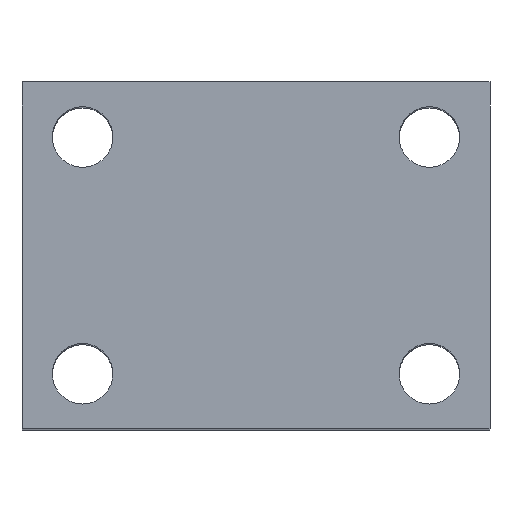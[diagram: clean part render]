
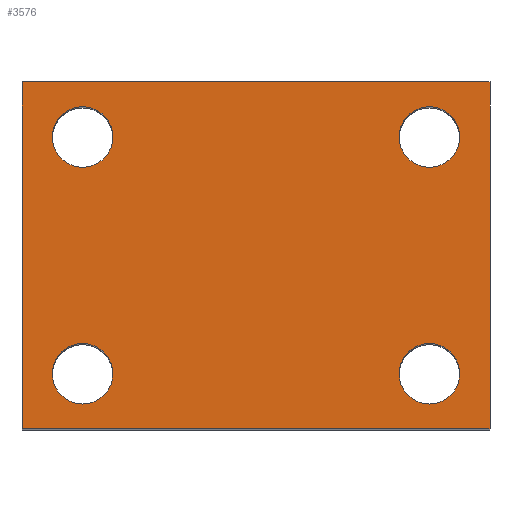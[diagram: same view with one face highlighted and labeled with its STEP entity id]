
A CAD part, top view. The second image highlights one B-rep face of the part: STEP entity #3576.
In plain terms, the highlighted planar face has unit normal (0, 0, 1).
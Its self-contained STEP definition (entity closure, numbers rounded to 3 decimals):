
#280 = FACE_BOUND ( 'NONE', #11046, .T. ) ;
#470 = CARTESIAN_POINT ( 'NONE',  ( -42.5, 63., 47.5 ) ) ;
#975 = VERTEX_POINT ( 'NONE', #13148 ) ;
#1243 = VERTEX_POINT ( 'NONE', #2969 ) ;
#1803 = CARTESIAN_POINT ( 'NONE',  ( 31.5, 53., 47.5 ) ) ;
#2070 = LINE ( 'NONE', #12819, #12425 ) ;
#2250 = AXIS2_PLACEMENT_3D ( 'NONE', #14847, #7132, #16204 ) ;
#2406 = PLANE ( 'NONE',  #11233 ) ;
#2740 = VERTEX_POINT ( 'NONE', #6909 ) ;
#2824 = AXIS2_PLACEMENT_3D ( 'NONE', #1803, #10893, #3177 ) ;
#2969 = CARTESIAN_POINT ( 'NONE',  ( 42.5, 63., 47.5 ) ) ;
#3085 = EDGE_CURVE ( 'NONE', #10294, #14927, #7605, .T. ) ;
#3123 = CARTESIAN_POINT ( 'NONE',  ( 31.5, 10., 47.5 ) ) ;
#3177 = DIRECTION ( 'NONE',  ( -1., 0., 0. ) ) ;
#3562 = LINE ( 'NONE', #470, #16988 ) ;
#3576 = ADVANCED_FACE ( 'NONE', ( #280, #13443, #6582, #9978, #16972 ), #2406, .F. ) ;
#3815 = DIRECTION ( 'NONE',  ( 0., -1., 0. ) ) ;
#3971 = EDGE_LOOP ( 'NONE', ( #15942, #7322 ) ) ;
#4237 = CARTESIAN_POINT ( 'NONE',  ( 31.5, 53., 47.5 ) ) ;
#4258 = CARTESIAN_POINT ( 'NONE',  ( -31.5, 10., 47.5 ) ) ;
#4261 = VERTEX_POINT ( 'NONE', #8660 ) ;
#4395 = EDGE_LOOP ( 'NONE', ( #5361, #8492, #15453, #5558 ) ) ;
#4480 = DIRECTION ( 'NONE',  ( -1., 0., 0. ) ) ;
#4577 = CARTESIAN_POINT ( 'NONE',  ( -37., 10., 47.5 ) ) ;
#4720 = DIRECTION ( 'NONE',  ( 0., 0., -1. ) ) ;
#4888 = CIRCLE ( 'NONE', #15534, 5.5 ) ;
#4917 = DIRECTION ( 'NONE',  ( 0., 0., -1. ) ) ;
#5049 = CARTESIAN_POINT ( 'NONE',  ( -31.5, 53., 47.5 ) ) ;
#5361 = ORIENTED_EDGE ( 'NONE', *, *, #7468, .T. ) ;
#5472 = AXIS2_PLACEMENT_3D ( 'NONE', #12410, #4720, #13733 ) ;
#5536 = DIRECTION ( 'NONE',  ( -1., 0., 0. ) ) ;
#5558 = ORIENTED_EDGE ( 'NONE', *, *, #13058, .T. ) ;
#5563 = DIRECTION ( 'NONE',  ( -1., 0., 0. ) ) ;
#5617 = ORIENTED_EDGE ( 'NONE', *, *, #12171, .T. ) ;
#5851 = EDGE_LOOP ( 'NONE', ( #11062, #9186 ) ) ;
#6079 = VERTEX_POINT ( 'NONE', #7234 ) ;
#6314 = DIRECTION ( 'NONE',  ( -1., 0., 0. ) ) ;
#6407 = VERTEX_POINT ( 'NONE', #12046 ) ;
#6582 = FACE_BOUND ( 'NONE', #5851, .T. ) ;
#6728 = CARTESIAN_POINT ( 'NONE',  ( 42.5, 0., 47.5 ) ) ;
#6909 = CARTESIAN_POINT ( 'NONE',  ( 26., 53., 47.5 ) ) ;
#7132 = DIRECTION ( 'NONE',  ( 0., 0., -1. ) ) ;
#7234 = CARTESIAN_POINT ( 'NONE',  ( -37., 53., 47.5 ) ) ;
#7322 = ORIENTED_EDGE ( 'NONE', *, *, #9092, .T. ) ;
#7409 = CARTESIAN_POINT ( 'NONE',  ( 37., 10., 47.5 ) ) ;
#7468 = EDGE_CURVE ( 'NONE', #975, #16552, #13799, .T. ) ;
#7605 = CIRCLE ( 'NONE', #13320, 5.5 ) ;
#7953 = DIRECTION ( 'NONE',  ( 1., 0., 0. ) ) ;
#8257 = AXIS2_PLACEMENT_3D ( 'NONE', #5049, #14059, #6314 ) ;
#8492 = ORIENTED_EDGE ( 'NONE', *, *, #12859, .F. ) ;
#8660 = CARTESIAN_POINT ( 'NONE',  ( 26., 10., 47.5 ) ) ;
#8675 = EDGE_CURVE ( 'NONE', #14927, #10294, #14394, .T. ) ;
#8760 = VECTOR ( 'NONE', #15215, 1000. ) ;
#9072 = EDGE_CURVE ( 'NONE', #4261, #11777, #13360, .T. ) ;
#9077 = CARTESIAN_POINT ( 'NONE',  ( -42.5, 63., 47.5 ) ) ;
#9092 = EDGE_CURVE ( 'NONE', #12623, #2740, #12939, .T. ) ;
#9162 = CIRCLE ( 'NONE', #15514, 5.5 ) ;
#9186 = ORIENTED_EDGE ( 'NONE', *, *, #15784, .T. ) ;
#9344 = CARTESIAN_POINT ( 'NONE',  ( -42.5, 0., 47.5 ) ) ;
#9471 = ORIENTED_EDGE ( 'NONE', *, *, #14991, .T. ) ;
#9978 = FACE_BOUND ( 'NONE', #3971, .T. ) ;
#10122 = EDGE_CURVE ( 'NONE', #2740, #12623, #4888, .T. ) ;
#10294 = VERTEX_POINT ( 'NONE', #4577 ) ;
#10337 = VECTOR ( 'NONE', #7953, 1000. ) ;
#10341 = DIRECTION ( 'NONE',  ( -1., 0., 0. ) ) ;
#10804 = ORIENTED_EDGE ( 'NONE', *, *, #8675, .T. ) ;
#10893 = DIRECTION ( 'NONE',  ( 0., 0., -1. ) ) ;
#10992 = CARTESIAN_POINT ( 'NONE',  ( 37., 53., 47.5 ) ) ;
#11027 = VERTEX_POINT ( 'NONE', #12387 ) ;
#11046 = EDGE_LOOP ( 'NONE', ( #5617, #9471 ) ) ;
#11062 = ORIENTED_EDGE ( 'NONE', *, *, #9072, .T. ) ;
#11214 = CIRCLE ( 'NONE', #8257, 5.5 ) ;
#11233 = AXIS2_PLACEMENT_3D ( 'NONE', #9077, #14119, #10341 ) ;
#11294 = CARTESIAN_POINT ( 'NONE',  ( -42.5, 63., 47.5 ) ) ;
#11761 = ORIENTED_EDGE ( 'NONE', *, *, #3085, .T. ) ;
#11777 = VERTEX_POINT ( 'NONE', #7409 ) ;
#12046 = CARTESIAN_POINT ( 'NONE',  ( -42.5, 63., 47.5 ) ) ;
#12157 = DIRECTION ( 'NONE',  ( 0., 0., -1. ) ) ;
#12171 = EDGE_CURVE ( 'NONE', #6079, #11027, #11214, .T. ) ;
#12180 = LINE ( 'NONE', #11294, #8760 ) ;
#12314 = CARTESIAN_POINT ( 'NONE',  ( -26., 10., 47.5 ) ) ;
#12387 = CARTESIAN_POINT ( 'NONE',  ( -26., 53., 47.5 ) ) ;
#12410 = CARTESIAN_POINT ( 'NONE',  ( -31.5, 53., 47.5 ) ) ;
#12425 = VECTOR ( 'NONE', #3815, 1000. ) ;
#12444 = EDGE_LOOP ( 'NONE', ( #11761, #10804 ) ) ;
#12597 = CARTESIAN_POINT ( 'NONE',  ( 31.5, 10., 47.5 ) ) ;
#12623 = VERTEX_POINT ( 'NONE', #10992 ) ;
#12819 = CARTESIAN_POINT ( 'NONE',  ( 42.5, 63., 47.5 ) ) ;
#12859 = EDGE_CURVE ( 'NONE', #1243, #16552, #2070, .T. ) ;
#12939 = CIRCLE ( 'NONE', #2824, 5.5 ) ;
#13058 = EDGE_CURVE ( 'NONE', #6407, #975, #3562, .T. ) ;
#13148 = CARTESIAN_POINT ( 'NONE',  ( -42.5, 0., 47.5 ) ) ;
#13231 = DIRECTION ( 'NONE',  ( 0., 0., -1. ) ) ;
#13259 = DIRECTION ( 'NONE',  ( 0., 0., -1. ) ) ;
#13320 = AXIS2_PLACEMENT_3D ( 'NONE', #4258, #13259, #5563 ) ;
#13360 = CIRCLE ( 'NONE', #16222, 5.5 ) ;
#13443 = FACE_BOUND ( 'NONE', #12444, .T. ) ;
#13618 = DIRECTION ( 'NONE',  ( 0., -1., 0. ) ) ;
#13733 = DIRECTION ( 'NONE',  ( -1., 0., 0. ) ) ;
#13799 = LINE ( 'NONE', #9344, #10337 ) ;
#13927 = DIRECTION ( 'NONE',  ( -1., 0., 0. ) ) ;
#14059 = DIRECTION ( 'NONE',  ( 0., 0., -1. ) ) ;
#14119 = DIRECTION ( 'NONE',  ( 0., 0., -1. ) ) ;
#14394 = CIRCLE ( 'NONE', #2250, 5.5 ) ;
#14847 = CARTESIAN_POINT ( 'NONE',  ( -31.5, 10., 47.5 ) ) ;
#14927 = VERTEX_POINT ( 'NONE', #12314 ) ;
#14991 = EDGE_CURVE ( 'NONE', #11027, #6079, #15237, .T. ) ;
#15215 = DIRECTION ( 'NONE',  ( 1., 0., 0. ) ) ;
#15237 = CIRCLE ( 'NONE', #5472, 5.5 ) ;
#15453 = ORIENTED_EDGE ( 'NONE', *, *, #15809, .F. ) ;
#15514 = AXIS2_PLACEMENT_3D ( 'NONE', #12597, #4917, #13927 ) ;
#15534 = AXIS2_PLACEMENT_3D ( 'NONE', #4237, #13231, #5536 ) ;
#15784 = EDGE_CURVE ( 'NONE', #11777, #4261, #9162, .T. ) ;
#15809 = EDGE_CURVE ( 'NONE', #6407, #1243, #12180, .T. ) ;
#15942 = ORIENTED_EDGE ( 'NONE', *, *, #10122, .T. ) ;
#16204 = DIRECTION ( 'NONE',  ( -1., 0., 0. ) ) ;
#16222 = AXIS2_PLACEMENT_3D ( 'NONE', #3123, #12157, #4480 ) ;
#16552 = VERTEX_POINT ( 'NONE', #6728 ) ;
#16972 = FACE_OUTER_BOUND ( 'NONE', #4395, .T. ) ;
#16988 = VECTOR ( 'NONE', #13618, 1000. ) ;
